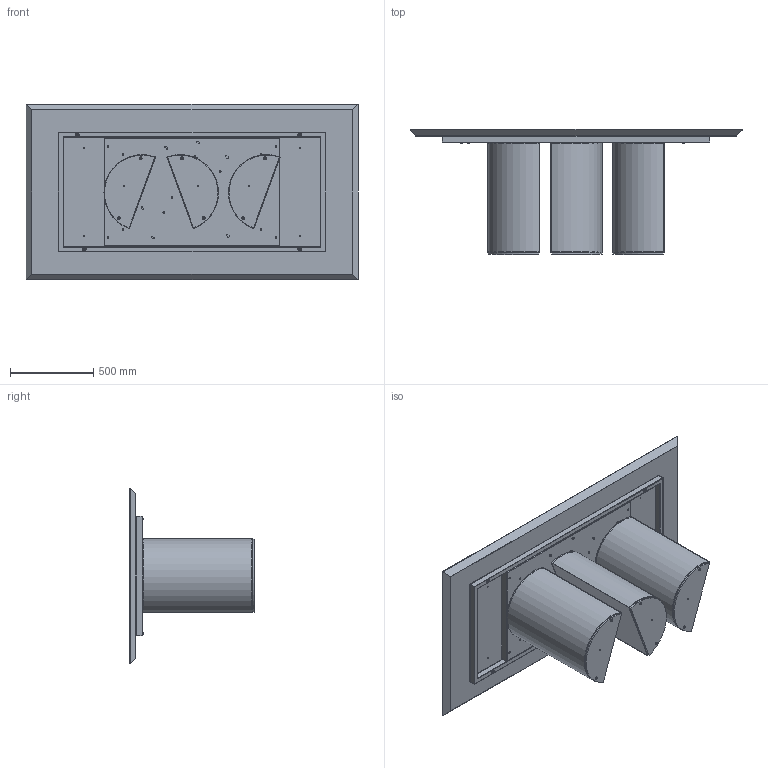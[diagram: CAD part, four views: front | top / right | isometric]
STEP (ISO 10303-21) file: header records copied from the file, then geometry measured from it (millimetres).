
FILE_DESCRIPTION (( 'STEP AP203' ), '1' );
FILE_NAME ('PL21W.STEP', '2024-08-07T13:51:37', ( '' ), ( '' ), 'SwSTEP 2.0', 'SolidWorks 2022', '' );
FILE_SCHEMA (( 'CONFIG_CONTROL_DESIGN' ));
Length unit declared in the file: millimetre
Products named in the file (14): M8xXXmm_hex_M8X60mm; TTAV0601-00-TELAIO X TAVOLI PLAI ONDA NOA 240cm_TTAV06; M8xXXmm_M8x55mm; COLLO TELAIO UNIVERSALE TTAV0601 CON FERRAMENTA_FERRAMENTA MTG TOP LEGNO-MARMO-KING; M8xXXmm_hex_M8X20mm; TTAV0601_02-00-VASSOIO TAVOLI PLAI ONDA NOA 240; M8xXXmm_M8x20mm; PLA000000BAS-00-PLAI BASE GREZZA; rondella M8_8X24; PLA000000ZOC-01-PLAI ZOCCOLO DELLA BASE; Assieme Basamento PLAI_Basamento per tavoli; TTAV0601_01-00-STRUTTURA X TAVOLI PLAI ONDA NOA 240; PL21W; W2XCMXX-00-Piani Rettangolari in legno_2000 x 1060
Assembly tree (32 placements, depth 4):
  PL21W
    COLLO TELAIO UNIVERSALE TTAV0601 CON FERRAMENTA_FERRAMENTA MTG TOP LEGNO-MARMO-KING
      TTAV0601-00-TELAIO X TAVOLI PLAI ONDA NOA 240cm_TTAV06
        TTAV0601_02-00-VASSOIO TAVOLI PLAI ONDA NOA 240
        TTAV0601_01-00-STRUTTURA X TAVOLI PLAI ONDA NOA 240
      rondella M8_8X24  x4
      M8xXXmm_M8x55mm  x4
    Assieme Basamento PLAI_Basamento per tavoli  x3
      PLA000000BAS-00-PLAI BASE GREZZA
      PLA000000ZOC-01-PLAI ZOCCOLO DELLA BASE
      M8xXXmm_hex_M8X60mm
      M8xXXmm_hex_M8X20mm
    rondella M8_8X24  x6
    M8xXXmm_M8x20mm  x6
    W2XCMXX-00-Piani Rettangolari in legno_2000 x 1060
Bounding box: 2000 x 752 x 1060 mm (x, y, z)
Volume: 89595993.1 mm3; surface area: 12993728.6 mm2
Topology: 44 solids, 44 shells, 1300 faces, 2948 edges, 1699 vertices
Faces by surface type: plane 515, cylinder 371, cone 274, torus 132, sphere 8
Entity records: 21154 total; most frequent: DIRECTION 3504, CARTESIAN_POINT 3379, ORIENTED_EDGE 3100, EDGE_CURVE 1550, AXIS2_PLACEMENT_3D 1308, VERTEX_POINT 931, VECTOR 888, LINE 888
